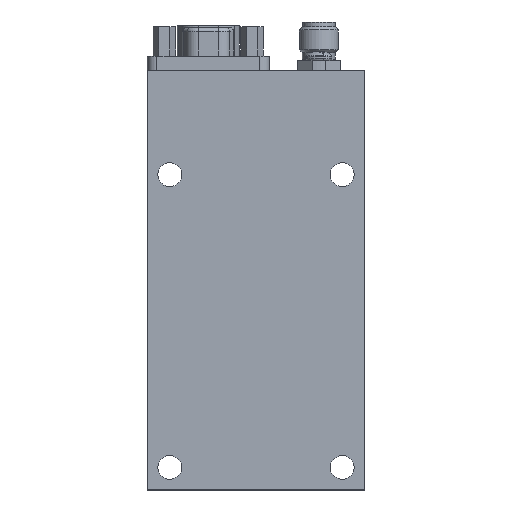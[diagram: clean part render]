
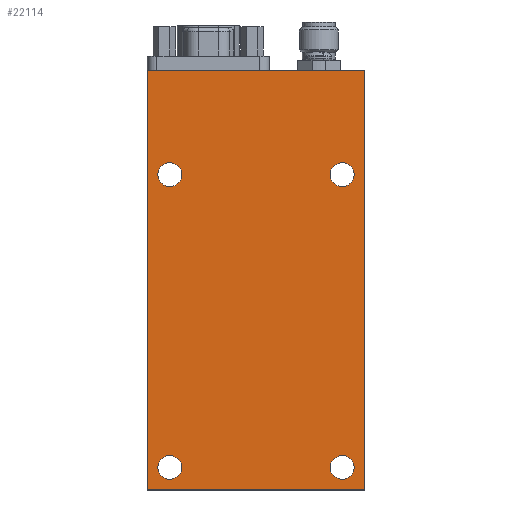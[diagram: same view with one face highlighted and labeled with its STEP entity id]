
A CAD part, front view. The second image highlights one B-rep face of the part: STEP entity #22114.
In plain terms, the highlighted planar face has unit normal (0, -1, 0).
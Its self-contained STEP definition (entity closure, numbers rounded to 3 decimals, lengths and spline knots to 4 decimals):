
#898 = CARTESIAN_POINT ( 'NONE',  ( -0.689, -0.1911, 0.6585 ) ) ;
#1930 = AXIS2_PLACEMENT_3D ( 'NONE', #53585, #37346, #41882 ) ;
#2352 = CIRCLE ( 'NONE', #50543, 0.077 ) ;
#2638 = DIRECTION ( 'NONE',  ( 0., 0., 1. ) ) ;
#2690 = LINE ( 'NONE', #41104, #34965 ) ;
#4673 = CIRCLE ( 'NONE', #23763, 0.077 ) ;
#5257 = AXIS2_PLACEMENT_3D ( 'NONE', #27131, #53597, #53885 ) ;
#6142 = EDGE_CURVE ( 'NONE', #36372, #38391, #47958, .T. ) ;
#6641 = VERTEX_POINT ( 'NONE', #48864 ) ;
#7097 = CARTESIAN_POINT ( 'NONE',  ( 0.421, -0.1911, -1.1495 ) ) ;
#7221 = AXIS2_PLACEMENT_3D ( 'NONE', #22887, #40210, #14315 ) ;
#7904 = CARTESIAN_POINT ( 'NONE',  ( 0.566, -0.1911, -1.2945 ) ) ;
#7945 = VECTOR ( 'NONE', #28359, 39.3701 ) ;
#8665 = DIRECTION ( 'NONE',  ( 0., 0., 1. ) ) ;
#8681 = EDGE_CURVE ( 'NONE', #37861, #6641, #45956, .T. ) ;
#9893 = FACE_BOUND ( 'NONE', #19460, .T. ) ;
#10433 = CARTESIAN_POINT ( 'NONE',  ( -0.834, -0.1911, 1.4055 ) ) ;
#11108 = CIRCLE ( 'NONE', #46530, 0.077 ) ;
#11190 = DIRECTION ( 'NONE',  ( 0., 1., 0. ) ) ;
#11439 = CARTESIAN_POINT ( 'NONE',  ( -0.834, -0.1911, 1.4055 ) ) ;
#11455 = CARTESIAN_POINT ( 'NONE',  ( -0.689, -0.1911, 0.7355 ) ) ;
#11514 = ORIENTED_EDGE ( 'NONE', *, *, #51644, .F. ) ;
#12218 = DIRECTION ( 'NONE',  ( 0., 1., 0. ) ) ;
#12399 = CARTESIAN_POINT ( 'NONE',  ( -0.689, -0.1911, -1.0725 ) ) ;
#12535 = EDGE_CURVE ( 'NONE', #37729, #22372, #2690, .T. ) ;
#12648 = DIRECTION ( 'NONE',  ( 0., 0., 1. ) ) ;
#12660 = DIRECTION ( 'NONE',  ( 0., 1., 0. ) ) ;
#12841 = CIRCLE ( 'NONE', #1930, 0.077 ) ;
#13051 = VERTEX_POINT ( 'NONE', #11439 ) ;
#13895 = CARTESIAN_POINT ( 'NONE',  ( -0.834, -0.1911, 1.4055 ) ) ;
#14160 = PLANE ( 'NONE',  #31639 ) ;
#14315 = DIRECTION ( 'NONE',  ( 0., 0., 1. ) ) ;
#15618 = EDGE_CURVE ( 'NONE', #6641, #37861, #11108, .T. ) ;
#16449 = LINE ( 'NONE', #7904, #21956 ) ;
#16908 = CARTESIAN_POINT ( 'NONE',  ( -0.689, -0.1911, -1.1495 ) ) ;
#17366 = EDGE_LOOP ( 'NONE', ( #47367, #22500 ) ) ;
#17799 = VERTEX_POINT ( 'NONE', #48683 ) ;
#17889 = ORIENTED_EDGE ( 'NONE', *, *, #35529, .F. ) ;
#19460 = EDGE_LOOP ( 'NONE', ( #38092, #23375 ) ) ;
#19709 = EDGE_CURVE ( 'NONE', #35326, #55721, #2352, .T. ) ;
#20366 = ORIENTED_EDGE ( 'NONE', *, *, #12535, .F. ) ;
#21315 = CARTESIAN_POINT ( 'NONE',  ( 0.421, -0.1911, 0.7355 ) ) ;
#21452 = AXIS2_PLACEMENT_3D ( 'NONE', #26584, #51627, #12648 ) ;
#21522 = CARTESIAN_POINT ( 'NONE',  ( 0.566, -0.1911, -1.2945 ) ) ;
#21956 = VECTOR ( 'NONE', #29807, 39.3701 ) ;
#22114 = ADVANCED_FACE ( 'NONE', ( #22441, #31814, #9893, #53152, #35228 ), #14160, .F. ) ;
#22372 = VERTEX_POINT ( 'NONE', #39160 ) ;
#22441 = FACE_BOUND ( 'NONE', #36481, .T. ) ;
#22500 = ORIENTED_EDGE ( 'NONE', *, *, #23013, .T. ) ;
#22887 = CARTESIAN_POINT ( 'NONE',  ( 0.421, -0.1911, 0.7355 ) ) ;
#23013 = EDGE_CURVE ( 'NONE', #40969, #17799, #12841, .T. ) ;
#23375 = ORIENTED_EDGE ( 'NONE', *, *, #44721, .T. ) ;
#23607 = ORIENTED_EDGE ( 'NONE', *, *, #48847, .F. ) ;
#23763 = AXIS2_PLACEMENT_3D ( 'NONE', #11455, #11190, #2638 ) ;
#24090 = LINE ( 'NONE', #10433, #7945 ) ;
#24345 = LINE ( 'NONE', #32600, #30175 ) ;
#26280 = CIRCLE ( 'NONE', #7221, 0.077 ) ;
#26584 = CARTESIAN_POINT ( 'NONE',  ( 0.421, -0.1911, -1.1495 ) ) ;
#27131 = CARTESIAN_POINT ( 'NONE',  ( -0.689, -0.1911, -1.1495 ) ) ;
#27258 = DIRECTION ( 'NONE',  ( 0., 0., 1. ) ) ;
#27798 = EDGE_LOOP ( 'NONE', ( #51852, #44676 ) ) ;
#28359 = DIRECTION ( 'NONE',  ( 1., 0., 0. ) ) ;
#29807 = DIRECTION ( 'NONE',  ( 0., 0., -1. ) ) ;
#30175 = VECTOR ( 'NONE', #41671, 39.3701 ) ;
#30288 = CARTESIAN_POINT ( 'NONE',  ( 0.421, -0.1911, 0.6585 ) ) ;
#31639 = AXIS2_PLACEMENT_3D ( 'NONE', #13895, #52599, #27258 ) ;
#31814 = FACE_BOUND ( 'NONE', #27798, .T. ) ;
#32024 = CARTESIAN_POINT ( 'NONE',  ( 0.421, -0.1911, -1.0725 ) ) ;
#32600 = CARTESIAN_POINT ( 'NONE',  ( -0.834, -0.1911, -1.2945 ) ) ;
#32795 = CARTESIAN_POINT ( 'NONE',  ( -0.689, -0.1911, -1.2265 ) ) ;
#32952 = CIRCLE ( 'NONE', #42922, 0.077 ) ;
#34965 = VECTOR ( 'NONE', #45940, 39.3701 ) ;
#35228 = FACE_OUTER_BOUND ( 'NONE', #39882, .T. ) ;
#35326 = VERTEX_POINT ( 'NONE', #55425 ) ;
#35529 = EDGE_CURVE ( 'NONE', #13051, #50005, #24090, .T. ) ;
#36372 = VERTEX_POINT ( 'NONE', #12399 ) ;
#36481 = EDGE_LOOP ( 'NONE', ( #42477, #54837 ) ) ;
#37346 = DIRECTION ( 'NONE',  ( 0., 1., 0. ) ) ;
#37729 = VERTEX_POINT ( 'NONE', #21522 ) ;
#37861 = VERTEX_POINT ( 'NONE', #32024 ) ;
#38092 = ORIENTED_EDGE ( 'NONE', *, *, #19709, .T. ) ;
#38391 = VERTEX_POINT ( 'NONE', #32795 ) ;
#38620 = DIRECTION ( 'NONE',  ( 0., 0., 1. ) ) ;
#39160 = CARTESIAN_POINT ( 'NONE',  ( -0.834, -0.1911, -1.2945 ) ) ;
#39882 = EDGE_LOOP ( 'NONE', ( #23607, #20366, #11514, #17889 ) ) ;
#40210 = DIRECTION ( 'NONE',  ( 0., 1., 0. ) ) ;
#40969 = VERTEX_POINT ( 'NONE', #898 ) ;
#41104 = CARTESIAN_POINT ( 'NONE',  ( -0.834, -0.1911, -1.2945 ) ) ;
#41671 = DIRECTION ( 'NONE',  ( 0., 0., 1. ) ) ;
#41882 = DIRECTION ( 'NONE',  ( 0., 0., 1. ) ) ;
#42477 = ORIENTED_EDGE ( 'NONE', *, *, #6142, .T. ) ;
#42643 = DIRECTION ( 'NONE',  ( 0., 0., 1. ) ) ;
#42922 = AXIS2_PLACEMENT_3D ( 'NONE', #16908, #12660, #8665 ) ;
#44676 = ORIENTED_EDGE ( 'NONE', *, *, #15618, .T. ) ;
#44721 = EDGE_CURVE ( 'NONE', #55721, #35326, #26280, .T. ) ;
#45940 = DIRECTION ( 'NONE',  ( -1., 0., 0. ) ) ;
#45956 = CIRCLE ( 'NONE', #21452, 0.077 ) ;
#46530 = AXIS2_PLACEMENT_3D ( 'NONE', #7097, #12218, #42643 ) ;
#47367 = ORIENTED_EDGE ( 'NONE', *, *, #52886, .T. ) ;
#47958 = CIRCLE ( 'NONE', #5257, 0.077 ) ;
#48683 = CARTESIAN_POINT ( 'NONE',  ( -0.689, -0.1911, 0.8125 ) ) ;
#48847 = EDGE_CURVE ( 'NONE', #22372, #13051, #24345, .T. ) ;
#48864 = CARTESIAN_POINT ( 'NONE',  ( 0.421, -0.1911, -1.2265 ) ) ;
#50005 = VERTEX_POINT ( 'NONE', #54511 ) ;
#50543 = AXIS2_PLACEMENT_3D ( 'NONE', #21315, #51181, #38620 ) ;
#51181 = DIRECTION ( 'NONE',  ( 0., 1., 0. ) ) ;
#51627 = DIRECTION ( 'NONE',  ( 0., 1., 0. ) ) ;
#51644 = EDGE_CURVE ( 'NONE', #50005, #37729, #16449, .T. ) ;
#51852 = ORIENTED_EDGE ( 'NONE', *, *, #8681, .T. ) ;
#52599 = DIRECTION ( 'NONE',  ( 0., 1., 0. ) ) ;
#52676 = EDGE_CURVE ( 'NONE', #38391, #36372, #32952, .T. ) ;
#52886 = EDGE_CURVE ( 'NONE', #17799, #40969, #4673, .T. ) ;
#53152 = FACE_BOUND ( 'NONE', #17366, .T. ) ;
#53585 = CARTESIAN_POINT ( 'NONE',  ( -0.689, -0.1911, 0.7355 ) ) ;
#53597 = DIRECTION ( 'NONE',  ( 0., 1., 0. ) ) ;
#53885 = DIRECTION ( 'NONE',  ( 0., 0., 1. ) ) ;
#54511 = CARTESIAN_POINT ( 'NONE',  ( 0.566, -0.1911, 1.4055 ) ) ;
#54837 = ORIENTED_EDGE ( 'NONE', *, *, #52676, .T. ) ;
#55425 = CARTESIAN_POINT ( 'NONE',  ( 0.421, -0.1911, 0.8125 ) ) ;
#55721 = VERTEX_POINT ( 'NONE', #30288 ) ;
